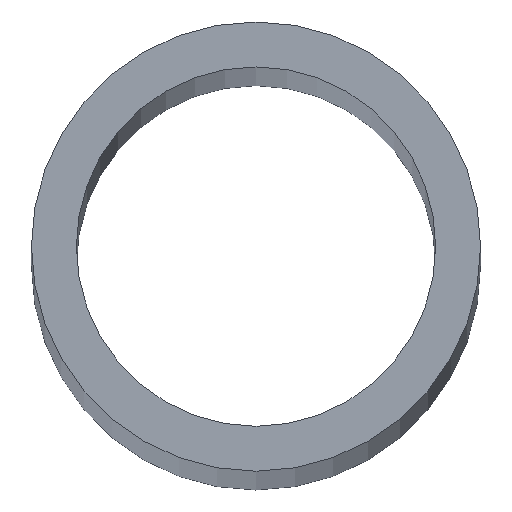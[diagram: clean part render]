
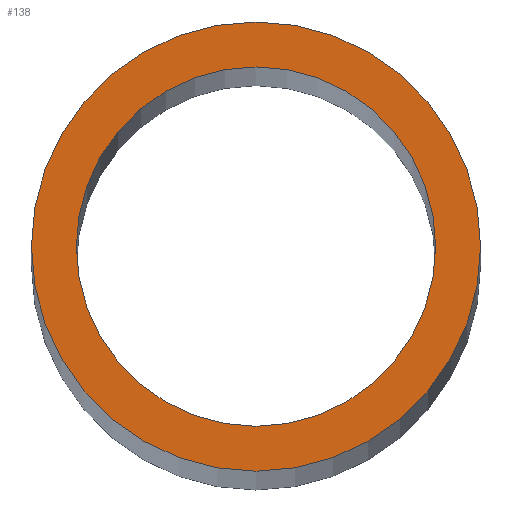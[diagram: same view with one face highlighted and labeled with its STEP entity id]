
A CAD part, top view. The second image highlights one B-rep face of the part: STEP entity #138.
In plain terms, the highlighted planar face has unit normal (0, 0, 1).
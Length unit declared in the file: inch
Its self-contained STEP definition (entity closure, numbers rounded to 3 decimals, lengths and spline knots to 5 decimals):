
#1 = AXIS2_PLACEMENT_3D ( 'NONE', #104, #38, #45 ) ;
#2 = AXIS2_PLACEMENT_3D ( 'NONE', #43, #72, #130 ) ;
#5 = EDGE_CURVE ( 'NONE', #65, #111, #156, .T. ) ;
#7 = EDGE_CURVE ( 'NONE', #111, #65, #154, .T. ) ;
#8 = EDGE_CURVE ( 'NONE', #115, #125, #174, .T. ) ;
#13 = EDGE_CURVE ( 'NONE', #125, #115, #190, .T. ) ;
#18 = AXIS2_PLACEMENT_3D ( 'NONE', #112, #37, #74 ) ;
#26 = AXIS2_PLACEMENT_3D ( 'NONE', #61, #70, #87 ) ;
#34 = AXIS2_PLACEMENT_3D ( 'NONE', #122, #99, #79 ) ;
#37 = DIRECTION ( 'NONE',  ( 0., 0., 1. ) ) ;
#38 = DIRECTION ( 'NONE',  ( 0., 0., 1. ) ) ;
#43 = CARTESIAN_POINT ( 'NONE',  ( 0., 0., 6. ) ) ;
#45 = DIRECTION ( 'NONE',  ( 1., 0., 0. ) ) ;
#49 = CARTESIAN_POINT ( 'NONE',  ( -0.25, 0., 6. ) ) ;
#61 = CARTESIAN_POINT ( 'NONE',  ( 0., 0., 6. ) ) ;
#62 = CARTESIAN_POINT ( 'NONE',  ( 0.25, 0., 6. ) ) ;
#65 = VERTEX_POINT ( 'NONE', #62 ) ;
#70 = DIRECTION ( 'NONE',  ( 0., 0., 1. ) ) ;
#72 = DIRECTION ( 'NONE',  ( 0., 0., 1. ) ) ;
#73 = PLANE ( 'NONE',  #26 ) ;
#74 = DIRECTION ( 'NONE',  ( 1., 0., 0. ) ) ;
#79 = DIRECTION ( 'NONE',  ( 1., 0., 0. ) ) ;
#80 = CARTESIAN_POINT ( 'NONE',  ( -0.2, 0., 6. ) ) ;
#87 = DIRECTION ( 'NONE',  ( 1., 0., 0. ) ) ;
#99 = DIRECTION ( 'NONE',  ( 0., 0., 1. ) ) ;
#104 = CARTESIAN_POINT ( 'NONE',  ( 0., 0., 6. ) ) ;
#111 = VERTEX_POINT ( 'NONE', #49 ) ;
#112 = CARTESIAN_POINT ( 'NONE',  ( 0., 0., 6. ) ) ;
#115 = VERTEX_POINT ( 'NONE', #123 ) ;
#122 = CARTESIAN_POINT ( 'NONE',  ( 0., 0., 6. ) ) ;
#123 = CARTESIAN_POINT ( 'NONE',  ( 0.2, 0., 6. ) ) ;
#125 = VERTEX_POINT ( 'NONE', #80 ) ;
#130 = DIRECTION ( 'NONE',  ( 1., 0., 0. ) ) ;
#138 = ADVANCED_FACE ( 'NONE', ( #213, #204 ), #73, .T. ) ;
#151 = ORIENTED_EDGE ( 'NONE', *, *, #13, .F. ) ;
#152 = EDGE_LOOP ( 'NONE', ( #173, #180 ) ) ;
#154 = CIRCLE ( 'NONE', #1, 0.25 ) ;
#156 = CIRCLE ( 'NONE', #34, 0.25 ) ;
#173 = ORIENTED_EDGE ( 'NONE', *, *, #7, .T. ) ;
#174 = CIRCLE ( 'NONE', #2, 0.2 ) ;
#180 = ORIENTED_EDGE ( 'NONE', *, *, #5, .T. ) ;
#181 = ORIENTED_EDGE ( 'NONE', *, *, #8, .F. ) ;
#182 = EDGE_LOOP ( 'NONE', ( #151, #181 ) ) ;
#190 = CIRCLE ( 'NONE', #18, 0.2 ) ;
#204 = FACE_BOUND ( 'NONE', #182, .T. ) ;
#213 = FACE_OUTER_BOUND ( 'NONE', #152, .T. ) ;
